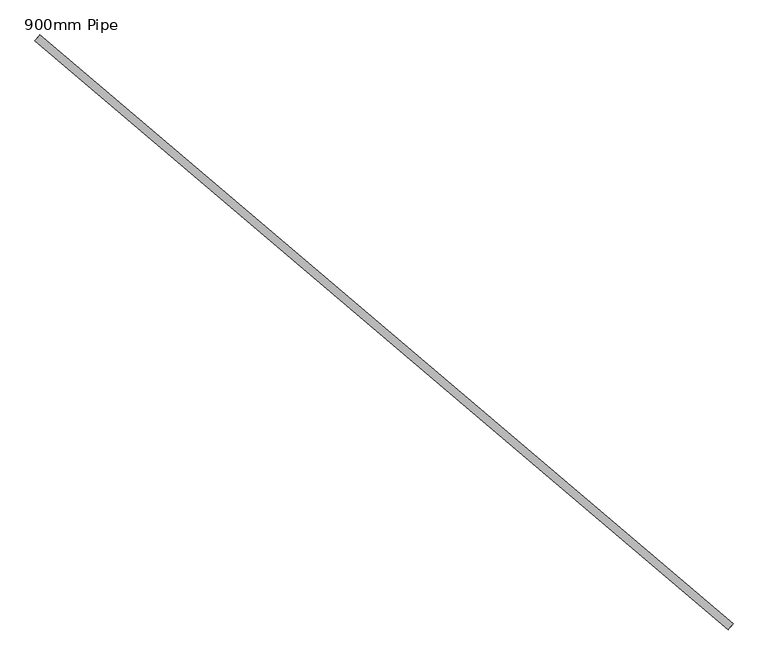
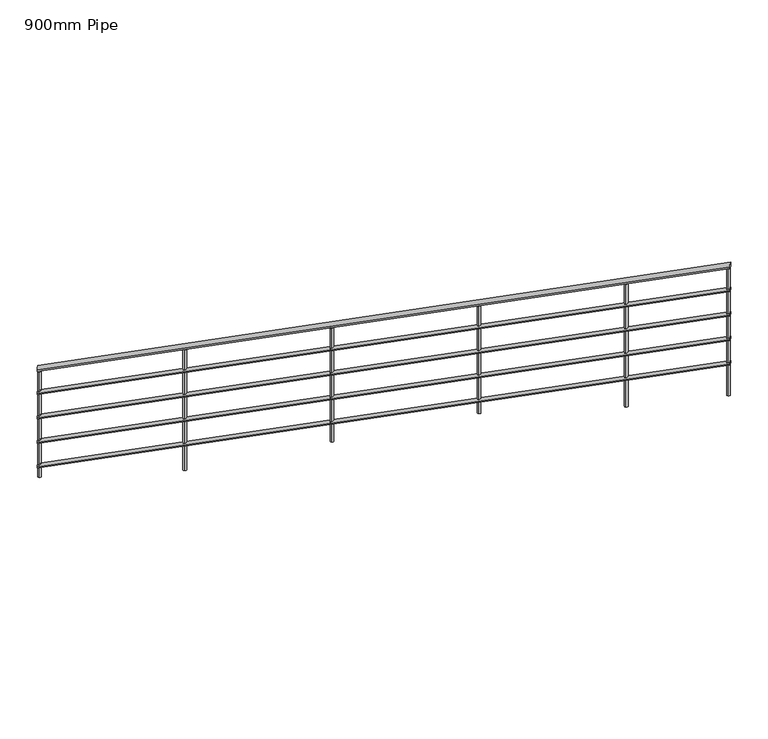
"""IFC4 building model written with IfcOpenShell, lengths in millimetres: railing geometry, 900mm Pipe."""

from ifc_helpers import new_model, si_unit, frame, origin, place, context, project, spatial, circle_curve, ellipse_curve, source, transform, mapped, element, save
from ifc_brep_helpers import plane_surface, cylinder_surface, advanced_brep


def railing_900mm_pipe_cde310b5(model_context):
    return source(origin(), model_context, "Body", "AdvancedBrep", [
        advanced_brep(
        [(812852.4006126, 48919.0737995, 2758.386247), (812878.2948538, 48949.5613096, 2758.386247), (816440.2364866, 45871.783711, 4192.7391882), (816466.1307278, 45902.2712212, 4192.7391882)],
        [
            (0, 1, ellipse_curve(frame((812865.3477332, 48934.3175545, 2758.386247), z_axis=(-0.7621877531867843, 0.647356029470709, 0.0), x_axis=(0.0, 0.0, -1.0)), 20.9078706, 20.0)),
            (1, 0, ellipse_curve(frame((812865.3477332, 48934.3175545, 2758.386247), z_axis=(-0.7621877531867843, 0.647356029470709, 0.0), x_axis=(0.0, 0.0, -1.0)), 20.9078706, 20.0)),
            (2, 3, ellipse_curve(frame((816453.1836072, 45887.0274661, 4192.7391882), z_axis=(0.7621877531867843, -0.647356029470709, 0.0), x_axis=(0.0, 0.0, -1.0)), 20.9078706, 20.0)),
            (3, 2, ellipse_curve(frame((816453.1836072, 45887.0274661, 4192.7391882), z_axis=(0.7621877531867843, -0.647356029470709, 0.0), x_axis=(0.0, 0.0, -1.0)), 20.9078706, 20.0)),
            (1, 3),
            (2, 0),
        ],
        [
            plane_surface(frame((812865.3477332, 48934.3175545, 2779.2941176), z_axis=(-0.7621877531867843, 0.647356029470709, 0.0), x_axis=(0.647356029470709, 0.7621877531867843, 0.0))),
            plane_surface(frame((816453.1836072, 45887.0274661, 4213.6470588), z_axis=(0.7621877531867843, -0.647356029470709, 0.0), x_axis=(0.647356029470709, 0.7621877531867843, 0.0))),
            cylinder_surface(frame((812869.7909507, 48930.5437551, 2760.1625663), z_axis=(-0.7290917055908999, 0.6192462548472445, -0.29147789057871), x_axis=(0.6473560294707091, 0.7621877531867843, 0.0)), 20.0),
        ],
        [
            (0, [[1, 2]]),
            (1, [[3, 4]]),
            (2, [[-2, 5, -3, 6]]),
            (2, [[-1, -6, -4, -5]]),
        ],
    ),
        advanced_brep(
        [(812855.6373927, 48922.8847382, 2563.6132147), (812875.0580736, 48945.7503708, 2563.6132147), (816443.4732668, 45875.5946498, 3997.9661558), (816462.8939476, 45898.4602824, 3997.9661558)],
        [
            (0, 1, ellipse_curve(frame((812865.3477332, 48934.3175545, 2563.6132147), z_axis=(-0.7621877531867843, 0.647356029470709, 0.0), x_axis=(0.0, 0.0, -1.0)), 15.680903, 15.0)),
            (1, 0, ellipse_curve(frame((812865.3477332, 48934.3175545, 2563.6132147), z_axis=(-0.7621877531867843, 0.647356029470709, 0.0), x_axis=(0.0, 0.0, -1.0)), 15.680903, 15.0)),
            (2, 3, ellipse_curve(frame((816453.1836072, 45887.0274661, 3997.9661558), z_axis=(0.7621877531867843, -0.647356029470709, 0.0), x_axis=(0.0, 0.0, -1.0)), 15.680903, 15.0)),
            (3, 2, ellipse_curve(frame((816453.1836072, 45887.0274661, 3997.9661558), z_axis=(0.7621877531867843, -0.647356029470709, 0.0), x_axis=(0.0, 0.0, -1.0)), 15.680903, 15.0)),
            (0, 2),
            (3, 1),
        ],
        [
            plane_surface(frame((812865.3477332, 48934.3175545, 2579.2941176), z_axis=(-0.7621877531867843, 0.647356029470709, 0.0), x_axis=(0.647356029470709, 0.7621877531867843, 0.0))),
            plane_surface(frame((816453.1836072, 45887.0274661, 4013.6470588), z_axis=(0.7621877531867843, -0.647356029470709, 0.0), x_axis=(0.647356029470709, 0.7621877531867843, 0.0))),
            cylinder_surface(frame((812868.6801464, 48931.487205, 2564.9454542), z_axis=(-0.7290917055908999, 0.6192462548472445, -0.29147789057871), x_axis=(0.6473560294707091, 0.7621877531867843, 0.0)), 15.0),
        ],
        [
            (0, [[1, 2]]),
            (1, [[3, 4]]),
            (2, [[-1, 5, -4, 6]]),
            (2, [[-2, -6, -3, -5]]),
        ],
    ),
        advanced_brep(
        [(812855.6373927, 48922.8847382, 2363.6132147), (812875.0580736, 48945.7503708, 2363.6132147), (816443.4732668, 45875.5946498, 3797.9661558), (816462.8939476, 45898.4602824, 3797.9661558)],
        [
            (0, 1, ellipse_curve(frame((812865.3477332, 48934.3175545, 2363.6132147), z_axis=(-0.7621877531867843, 0.647356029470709, 0.0), x_axis=(0.0, 0.0, -1.0)), 15.680903, 15.0)),
            (1, 0, ellipse_curve(frame((812865.3477332, 48934.3175545, 2363.6132147), z_axis=(-0.7621877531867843, 0.647356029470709, 0.0), x_axis=(0.0, 0.0, -1.0)), 15.680903, 15.0)),
            (2, 3, ellipse_curve(frame((816453.1836072, 45887.0274661, 3797.9661558), z_axis=(0.7621877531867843, -0.647356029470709, 0.0), x_axis=(0.0, 0.0, -1.0)), 15.680903, 15.0)),
            (3, 2, ellipse_curve(frame((816453.1836072, 45887.0274661, 3797.9661558), z_axis=(0.7621877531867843, -0.647356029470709, 0.0), x_axis=(0.0, 0.0, -1.0)), 15.680903, 15.0)),
            (0, 2),
            (3, 1),
        ],
        [
            plane_surface(frame((812865.3477332, 48934.3175545, 2379.2941176), z_axis=(-0.7621877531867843, 0.647356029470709, 0.0), x_axis=(0.647356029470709, 0.7621877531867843, 0.0))),
            plane_surface(frame((816453.1836072, 45887.0274661, 3813.6470588), z_axis=(0.7621877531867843, -0.647356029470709, 0.0), x_axis=(0.647356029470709, 0.7621877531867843, 0.0))),
            cylinder_surface(frame((812868.6801464, 48931.487205, 2364.9454542), z_axis=(-0.7290917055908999, 0.6192462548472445, -0.29147789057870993), x_axis=(0.6473560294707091, 0.7621877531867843, 0.0)), 15.0),
        ],
        [
            (0, [[1, 2]]),
            (1, [[3, 4]]),
            (2, [[-1, 5, -4, 6]]),
            (2, [[-2, -6, -3, -5]]),
        ],
    ),
        advanced_brep(
        [(812855.6373927, 48922.8847382, 2163.6132147), (812875.0580736, 48945.7503708, 2163.6132147), (816443.4732668, 45875.5946498, 3597.9661558), (816462.8939476, 45898.4602824, 3597.9661558)],
        [
            (0, 1, ellipse_curve(frame((812865.3477332, 48934.3175545, 2163.6132147), z_axis=(-0.7621877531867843, 0.647356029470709, 0.0), x_axis=(0.0, 0.0, -1.0)), 15.680903, 15.0)),
            (1, 0, ellipse_curve(frame((812865.3477332, 48934.3175545, 2163.6132147), z_axis=(-0.7621877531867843, 0.647356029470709, 0.0), x_axis=(0.0, 0.0, -1.0)), 15.680903, 15.0)),
            (2, 3, ellipse_curve(frame((816453.1836072, 45887.0274661, 3597.9661558), z_axis=(0.7621877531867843, -0.647356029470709, 0.0), x_axis=(0.0, 0.0, -1.0)), 15.680903, 15.0)),
            (3, 2, ellipse_curve(frame((816453.1836072, 45887.0274661, 3597.9661558), z_axis=(0.7621877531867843, -0.647356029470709, 0.0), x_axis=(0.0, 0.0, -1.0)), 15.680903, 15.0)),
            (0, 2),
            (3, 1),
        ],
        [
            plane_surface(frame((812865.3477332, 48934.3175545, 2179.2941176), z_axis=(-0.7621877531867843, 0.647356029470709, 0.0), x_axis=(0.647356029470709, 0.7621877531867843, 0.0))),
            plane_surface(frame((816453.1836072, 45887.0274661, 3613.6470588), z_axis=(0.7621877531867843, -0.647356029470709, 0.0), x_axis=(0.647356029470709, 0.7621877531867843, 0.0))),
            cylinder_surface(frame((812868.6801464, 48931.487205, 2164.9454542), z_axis=(-0.7290917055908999, 0.6192462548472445, -0.29147789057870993), x_axis=(0.6473560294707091, 0.7621877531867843, 0.0)), 15.0),
        ],
        [
            (0, [[1, 2]]),
            (1, [[3, 4]]),
            (2, [[-1, 5, -4, 6]]),
            (2, [[-2, -6, -3, -5]]),
        ],
    ),
        advanced_brep(
        [(812855.6373927, 48922.8847382, 1963.6132147), (812875.0580736, 48945.7503708, 1963.6132147), (816443.4732668, 45875.5946498, 3397.9661558), (816462.8939476, 45898.4602824, 3397.9661558)],
        [
            (0, 1, ellipse_curve(frame((812865.3477332, 48934.3175545, 1963.6132147), z_axis=(-0.7621877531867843, 0.647356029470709, 0.0), x_axis=(0.0, 0.0, -1.0)), 15.680903, 15.0)),
            (1, 0, ellipse_curve(frame((812865.3477332, 48934.3175545, 1963.6132147), z_axis=(-0.7621877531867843, 0.647356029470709, 0.0), x_axis=(0.0, 0.0, -1.0)), 15.680903, 15.0)),
            (2, 3, ellipse_curve(frame((816453.1836072, 45887.0274661, 3397.9661558), z_axis=(0.7621877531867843, -0.647356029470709, 0.0), x_axis=(0.0, 0.0, -1.0)), 15.680903, 15.0)),
            (3, 2, ellipse_curve(frame((816453.1836072, 45887.0274661, 3397.9661558), z_axis=(0.7621877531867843, -0.647356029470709, 0.0), x_axis=(0.0, 0.0, -1.0)), 15.680903, 15.0)),
            (0, 2),
            (3, 1),
        ],
        [
            plane_surface(frame((812865.3477332, 48934.3175545, 1979.2941176), z_axis=(-0.7621877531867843, 0.647356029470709, 0.0), x_axis=(0.647356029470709, 0.7621877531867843, 0.0))),
            plane_surface(frame((816453.1836072, 45887.0274661, 3413.6470588), z_axis=(0.7621877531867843, -0.647356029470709, 0.0), x_axis=(0.647356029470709, 0.7621877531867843, 0.0))),
            cylinder_surface(frame((812868.6801464, 48931.487205, 1964.9454542), z_axis=(-0.7290917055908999, 0.6192462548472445, -0.29147789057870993), x_axis=(0.6473560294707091, 0.7621877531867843, 0.0)), 15.0),
        ],
        [
            (0, [[1, 2]]),
            (1, [[3, 4]]),
            (2, [[-1, 5, -4, 6]]),
            (2, [[-2, -6, -3, -5]]),
        ],
    ),
        advanced_brep(
        [(815922.1906963, 46354.4207836, 3956.3147824), (815906.0067956, 46335.3660897, 3956.3147824), (815906.0067956, 46335.3660897, 2955.0588235), (815922.1906963, 46354.4207836, 2955.0588235)],
        [
            (0, 1, ellipse_curve(frame((815914.0987459, 46344.8934366, 3956.3147824), z_axis=(0.22216087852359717, -0.18868996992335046, -0.9565775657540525), x_axis=(0.7290917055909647, -0.6192462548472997, 0.2914778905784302)), 13.0674191, 12.5)),
            (1, 2),
            (2, 3, circle_curve(frame((815914.0987459, 46344.8934366, 2955.0588235), z_axis=(0.0, 0.0, 1.0), x_axis=(-0.6473560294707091, -0.7621877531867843, 0.0)), 12.5)),
            (3, 0),
            (3, 2, circle_curve(frame((815914.0987459, 46344.8934366, 2955.0588235), z_axis=(0.0, 0.0, 1.0), x_axis=(-0.6473560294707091, -0.7621877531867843, 0.0)), 12.5)),
            (1, 0, ellipse_curve(frame((815914.0987459, 46344.8934366, 3956.3147824), z_axis=(0.22216087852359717, -0.18868996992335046, -0.9565775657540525), x_axis=(0.7290917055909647, -0.6192462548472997, 0.2914778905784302)), 13.0674191, 12.5)),
        ],
        [
            cylinder_surface(frame((815914.0987459, 46344.8934366, 2855.0588235), z_axis=(0.0, 0.0, 1.0), x_axis=(-0.6473560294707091, -0.7621877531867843, 0.0)), 12.5),
            plane_surface(frame((815916.969539, 46309.6548421, 3963.9325099), z_axis=(-0.22216087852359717, 0.18868996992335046, 0.9565775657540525), x_axis=(0.6473560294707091, 0.7621877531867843, 0.0))),
            plane_surface(frame((815878.8601514, 46342.0226435, 2955.0588235), z_axis=(0.0, 0.0, -1.0), x_axis=(0.6473560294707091, 0.7621877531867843, 0.0))),
        ],
        [
            (0, [[1, 2, 3, 4]]),
            (0, [[5, -2, 6, -4]]),
            (1, [[-6, -1]]),
            (2, [[-5, -3]]),
        ],
    ),
        advanced_brep(
        [(815160.0029431, 47001.776813, 3651.6056809), (815143.8190424, 46982.7221192, 3651.6056809), (815143.8190424, 46982.7221192, 2775.7647059), (815160.0029431, 47001.776813, 2775.7647059)],
        [
            (0, 1, ellipse_curve(frame((815151.9109927, 46992.2494661, 3651.6056809), z_axis=(0.22216087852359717, -0.18868996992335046, -0.9565775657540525), x_axis=(0.7290917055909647, -0.6192462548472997, 0.2914778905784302)), 13.0674191, 12.5)),
            (1, 2),
            (2, 3, circle_curve(frame((815151.9109927, 46992.2494661, 2775.7647059), z_axis=(0.0, 0.0, 1.0), x_axis=(-0.6473560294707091, -0.7621877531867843, 0.0)), 12.5)),
            (3, 0),
            (3, 2, circle_curve(frame((815151.9109927, 46992.2494661, 2775.7647059), z_axis=(0.0, 0.0, 1.0), x_axis=(-0.6473560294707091, -0.7621877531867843, 0.0)), 12.5)),
            (1, 0, ellipse_curve(frame((815151.9109927, 46992.2494661, 3651.6056809), z_axis=(0.22216087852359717, -0.18868996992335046, -0.9565775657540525), x_axis=(0.7290917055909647, -0.6192462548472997, 0.2914778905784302)), 13.0674191, 12.5)),
        ],
        [
            cylinder_surface(frame((815151.9109927, 46992.2494661, 2675.7647059), z_axis=(0.0, 0.0, 1.0), x_axis=(-0.6473560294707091, -0.7621877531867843, 0.0)), 12.5),
            plane_surface(frame((815154.7817858, 46957.0108715, 3659.2234084), z_axis=(-0.22216087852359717, 0.18868996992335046, 0.9565775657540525), x_axis=(0.6473560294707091, 0.7621877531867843, 0.0))),
            plane_surface(frame((815116.6723982, 46989.378673, 2775.7647059), z_axis=(0.0, 0.0, -1.0), x_axis=(0.6473560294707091, 0.7621877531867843, 0.0))),
        ],
        [
            (0, [[1, 2, 3, 4]]),
            (0, [[5, -2, 6, -4]]),
            (1, [[-6, -1]]),
            (2, [[-5, -3]]),
        ],
    ),
        advanced_brep(
        [(814397.8151899, 47649.1328425, 3346.8965794), (814381.6312892, 47630.0781487, 3346.8965794), (814381.6312892, 47630.0781487, 2417.1764706), (814397.8151899, 47649.1328425, 2417.1764706)],
        [
            (0, 1, ellipse_curve(frame((814389.7232396, 47639.6054956, 3346.8965794), z_axis=(0.22216087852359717, -0.18868996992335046, -0.9565775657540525), x_axis=(0.7290917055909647, -0.6192462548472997, 0.2914778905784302)), 13.0674191, 12.5)),
            (1, 2),
            (2, 3, circle_curve(frame((814389.7232396, 47639.6054956, 2417.1764706), z_axis=(0.0, 0.0, 1.0), x_axis=(-0.6473560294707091, -0.7621877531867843, 0.0)), 12.5)),
            (3, 0),
            (3, 2, circle_curve(frame((814389.7232396, 47639.6054956, 2417.1764706), z_axis=(0.0, 0.0, 1.0), x_axis=(-0.6473560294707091, -0.7621877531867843, 0.0)), 12.5)),
            (1, 0, ellipse_curve(frame((814389.7232396, 47639.6054956, 3346.8965794), z_axis=(0.22216087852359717, -0.18868996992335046, -0.9565775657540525), x_axis=(0.7290917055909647, -0.6192462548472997, 0.2914778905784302)), 13.0674191, 12.5)),
        ],
        [
            cylinder_surface(frame((814389.7232396, 47639.6054956, 2317.1764706), z_axis=(0.0, 0.0, 1.0), x_axis=(-0.6473560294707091, -0.7621877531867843, 0.0)), 12.5),
            plane_surface(frame((814392.5940326, 47604.366901, 3354.5143069), z_axis=(-0.22216087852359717, 0.18868996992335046, 0.9565775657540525), x_axis=(0.6473560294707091, 0.7621877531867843, 0.0))),
            plane_surface(frame((814354.484645, 47636.7347025, 2417.1764706), z_axis=(0.0, 0.0, -1.0), x_axis=(0.6473560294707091, 0.7621877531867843, 0.0))),
        ],
        [
            (0, [[1, 2, 3, 4]]),
            (0, [[5, -2, 6, -4]]),
            (1, [[-6, -1]]),
            (2, [[-5, -3]]),
        ],
    ),
        advanced_brep(
        [(813635.6274367, 48296.488872, 3042.1874779), (813619.443536, 48277.4341781, 3042.1874779), (813619.443536, 48277.4341781, 2058.5882353), (813635.6274367, 48296.488872, 2058.5882353)],
        [
            (0, 1, ellipse_curve(frame((813627.5354864, 48286.961525, 3042.1874779), z_axis=(0.222160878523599, -0.18868996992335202, -0.9565775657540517), x_axis=(0.729091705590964, -0.619246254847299, 0.29147789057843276)), 13.0674191, 12.5)),
            (1, 2),
            (2, 3, circle_curve(frame((813627.5354864, 48286.961525, 2058.5882353), z_axis=(0.0, 0.0, 1.0), x_axis=(-0.6473560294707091, -0.7621877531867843, 0.0)), 12.5)),
            (3, 0),
            (3, 2, circle_curve(frame((813627.5354864, 48286.961525, 2058.5882353), z_axis=(0.0, 0.0, 1.0), x_axis=(-0.6473560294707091, -0.7621877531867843, 0.0)), 12.5)),
            (1, 0, ellipse_curve(frame((813627.5354864, 48286.961525, 3042.1874779), z_axis=(0.222160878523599, -0.18868996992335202, -0.9565775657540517), x_axis=(0.729091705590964, -0.619246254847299, 0.29147789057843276)), 13.0674191, 12.5)),
        ],
        [
            cylinder_surface(frame((813627.5354864, 48286.961525, 1958.5882353), z_axis=(0.0, 0.0, 1.0), x_axis=(-0.6473560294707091, -0.7621877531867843, 0.0)), 12.5),
            plane_surface(frame((813630.4062795, 48251.7229305, 3049.8052054), z_axis=(-0.222160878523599, 0.18868996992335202, 0.9565775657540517), x_axis=(0.6473560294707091, 0.7621877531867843, 0.0))),
            plane_surface(frame((813592.2968918, 48284.090732, 2058.5882353), z_axis=(0.0, 0.0, -1.0), x_axis=(0.6473560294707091, 0.7621877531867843, 0.0))),
        ],
        [
            (0, [[1, 2, 3, 4]]),
            (0, [[5, -2, 6, -4]]),
            (1, [[-6, -1]]),
            (2, [[-5, -3]]),
        ],
    ),
        advanced_brep(
        [(816451.7482107, 45904.6467634, 4168.0224538), (816435.5643099, 45885.5920696, 4168.0224538), (816435.5643099, 45885.5920696, 3134.3529412), (816451.7482107, 45904.6467634, 3134.3529412)],
        [
            (0, 1, ellipse_curve(frame((816443.6562603, 45895.1194165, 4168.0224538), z_axis=(0.22216087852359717, -0.18868996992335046, -0.9565775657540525), x_axis=(0.7290917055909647, -0.6192462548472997, 0.2914778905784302)), 13.0674191, 12.5)),
            (1, 2),
            (2, 3, circle_curve(frame((816443.6562603, 45895.1194165, 3134.3529412), z_axis=(0.0, 0.0, 1.0), x_axis=(-0.6473560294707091, -0.7621877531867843, 0.0)), 12.5)),
            (3, 0),
            (3, 2, circle_curve(frame((816443.6562603, 45895.1194165, 3134.3529412), z_axis=(0.0, 0.0, 1.0), x_axis=(-0.6473560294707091, -0.7621877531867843, 0.0)), 12.5)),
            (1, 0, ellipse_curve(frame((816443.6562603, 45895.1194165, 4168.0224538), z_axis=(0.22216087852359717, -0.18868996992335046, -0.9565775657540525), x_axis=(0.7290917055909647, -0.6192462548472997, 0.2914778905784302)), 13.0674191, 12.5)),
        ],
        [
            cylinder_surface(frame((816443.6562603, 45895.1194165, 3034.3529412), z_axis=(0.0, 0.0, 1.0), x_axis=(-0.6473560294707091, -0.7621877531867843, 0.0)), 12.5),
            plane_surface(frame((816446.5270534, 45859.8808219, 4175.6401813), z_axis=(-0.22216087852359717, 0.18868996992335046, 0.9565775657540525), x_axis=(0.6473560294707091, 0.7621877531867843, 0.0))),
            plane_surface(frame((816408.4176657, 45892.2486234, 3134.3529412), z_axis=(0.0, 0.0, -1.0), x_axis=(0.6473560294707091, 0.7621877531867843, 0.0))),
        ],
        [
            (0, [[1, 2, 3, 4]]),
            (0, [[5, -2, 6, -4]]),
            (1, [[-6, -1]]),
            (2, [[-5, -3]]),
        ],
    ),
        advanced_brep(
        [(812882.9670305, 48935.7529511, 2741.2872401), (812866.7831297, 48916.6982572, 2741.2872401), (812866.7831297, 48916.6982572, 1879.2941176), (812882.9670305, 48935.7529511, 1879.2941176)],
        [
            (0, 1, ellipse_curve(frame((812874.8750801, 48926.2256042, 2741.2872401), z_axis=(0.222160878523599, -0.18868996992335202, -0.9565775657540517), x_axis=(0.729091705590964, -0.619246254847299, 0.29147789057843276)), 13.0674191, 12.5)),
            (1, 2),
            (2, 3, circle_curve(frame((812874.8750801, 48926.2256042, 1879.2941176), z_axis=(0.0, 0.0, 1.0), x_axis=(-0.6473560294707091, -0.7621877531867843, 0.0)), 12.5)),
            (3, 0),
            (3, 2, circle_curve(frame((812874.8750801, 48926.2256042, 1879.2941176), z_axis=(0.0, 0.0, 1.0), x_axis=(-0.6473560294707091, -0.7621877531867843, 0.0)), 12.5)),
            (1, 0, ellipse_curve(frame((812874.8750801, 48926.2256042, 2741.2872401), z_axis=(0.222160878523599, -0.18868996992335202, -0.9565775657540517), x_axis=(0.729091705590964, -0.619246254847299, 0.29147789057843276)), 13.0674191, 12.5)),
        ],
        [
            cylinder_surface(frame((812874.8750801, 48926.2256042, 1779.2941176), z_axis=(0.0, 0.0, 1.0), x_axis=(-0.6473560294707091, -0.7621877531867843, 0.0)), 12.5),
            plane_surface(frame((812877.7458732, 48890.9870096, 2748.9049677), z_axis=(-0.222160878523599, 0.18868996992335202, 0.9565775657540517), x_axis=(0.6473560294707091, 0.7621877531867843, 0.0))),
            plane_surface(frame((812839.6364855, 48923.3548111, 1879.2941176), z_axis=(0.0, 0.0, -1.0), x_axis=(0.6473560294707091, 0.7621877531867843, 0.0))),
        ],
        [
            (0, [[1, 2, 3, 4]]),
            (0, [[5, -2, 6, -4]]),
            (1, [[-6, -1]]),
            (2, [[-5, -3]]),
        ],
    ),
    ])


if __name__ == "__main__":
    model = new_model("IFC4")
    model_context = context("Model", 3, world=origin())
    ifc_project = project(units=[si_unit("LENGTHUNIT", "METRE", prefix="MILLI")], contexts=[model_context])
    site = spatial("IfcSite", under=ifc_project)
    building = spatial("IfcBuilding", under=site)
    placement = place(None, origin())
    railing_900mm_pipe_shape = railing_900mm_pipe_cde310b5(model_context)
    element("IfcRailing", 1, ObjectType="900mm Pipe", at=placement, inside=building, context=model_context, shape_type="MappedRepresentation", body=[
        mapped(railing_900mm_pipe_shape, transform((0.0, 0.0, 0.0), x_axis=(1.0, 0.0, 0.0), y_axis=(0.0, 1.0, 0.0), z_axis=(0.0, 0.0, 1.0))),
    ])
    save(model, "model.ifc")
